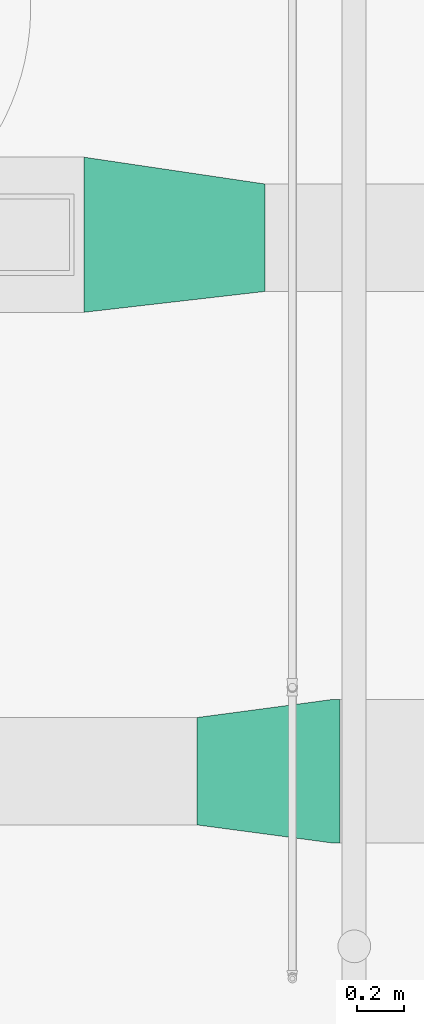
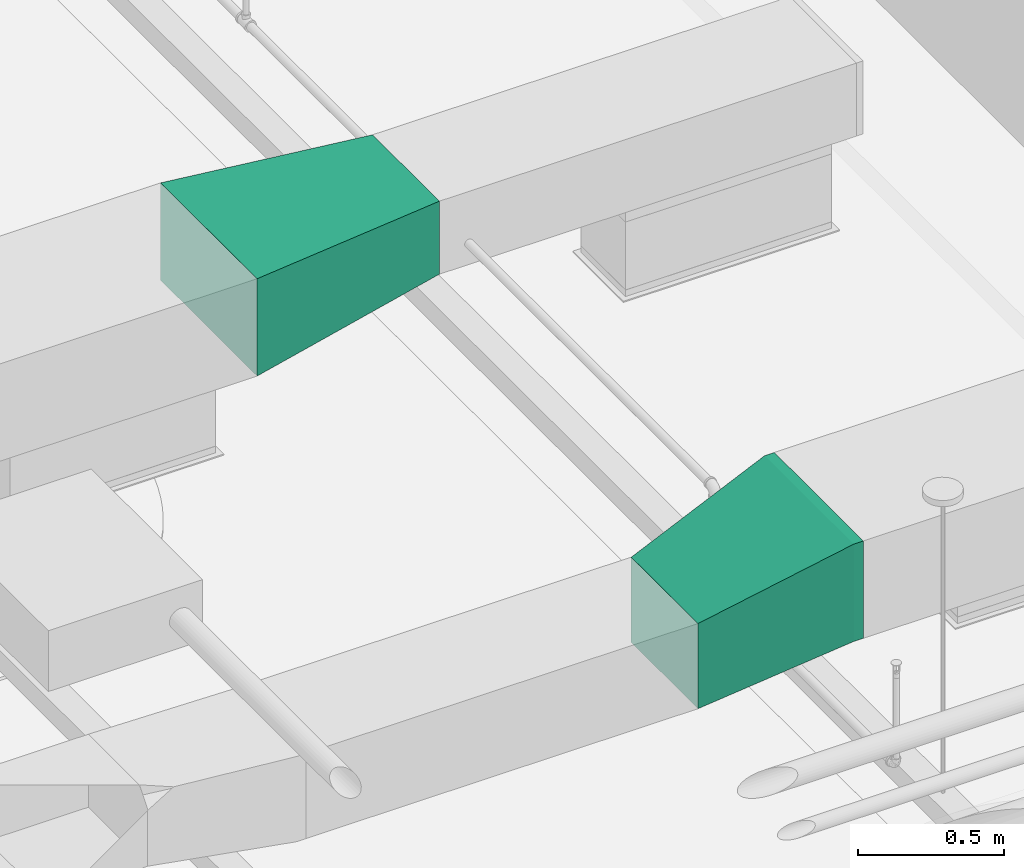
# One storey, part 103 of 108: 2 duct fittings.
"""IFC4 building model written with IfcOpenShell, lengths in feet."""

from ifc_helpers import new_model, entity, si_unit, converted_unit, derived_unit, direction, frame, origin, place, context, subcontext, project, spatial, source, transform, mapped, type_object, type_shapes, element, save


model = new_model("IFC4")

# Units and contexts
model_context = context("Model", 3, precision=0.0001, world=origin(), true_north=direction((6.12303176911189e-17, 1.0)))
body_context = subcontext(model_context, "Body", "Model", "MODEL_VIEW")
ifc_project = project(units=[converted_unit("LENGTHUNIT", "FOOT", entity("IfcRatioMeasure", 0.3048), si_unit("LENGTHUNIT", "METRE"), dimensions=[1, 0, 0, 0, 0, 0, 0]), converted_unit("AREAUNIT", "SQUARE FOOT", entity("IfcRatioMeasure", 0.09290304), si_unit("AREAUNIT", "SQUARE_METRE"), dimensions=[2, 0, 0, 0, 0, 0, 0]), converted_unit("VOLUMEUNIT", "CUBIC FOOT", entity("IfcRatioMeasure", 0.028316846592), si_unit("VOLUMEUNIT", "CUBIC_METRE"), dimensions=[3, 0, 0, 0, 0, 0, 0]), converted_unit("PLANEANGLEUNIT", "DEGREE", entity("IfcRatioMeasure", 0.0174532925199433), si_unit("PLANEANGLEUNIT", "RADIAN"), dimensions=[0, 0, 0, 0, 0, 0, 0]), si_unit("MASSUNIT", "GRAM", prefix="KILO"), derived_unit("MASSDENSITYUNIT", [(si_unit("MASSUNIT", "GRAM", prefix="KILO"), 1), (si_unit("LENGTHUNIT", "METRE"), -3)]), si_unit("TIMEUNIT", "SECOND"), si_unit("FREQUENCYUNIT", "HERTZ"), si_unit("THERMODYNAMICTEMPERATUREUNIT", "DEGREE_CELSIUS"), derived_unit("THERMALTRANSMITTANCEUNIT", [(si_unit("MASSUNIT", "GRAM", prefix="KILO"), 1), (si_unit("THERMODYNAMICTEMPERATUREUNIT", "KELVIN"), -1), (si_unit("TIMEUNIT", "SECOND"), -3)]), derived_unit("VOLUMETRICFLOWRATEUNIT", [(si_unit("LENGTHUNIT", "METRE"), 3), (si_unit("TIMEUNIT", "SECOND"), -1)]), si_unit("ELECTRICCURRENTUNIT", "AMPERE"), si_unit("ELECTRICVOLTAGEUNIT", "VOLT"), si_unit("POWERUNIT", "WATT"), si_unit("FORCEUNIT", "NEWTON"), si_unit("ILLUMINANCEUNIT", "LUX"), si_unit("LUMINOUSFLUXUNIT", "LUMEN"), si_unit("LUMINOUSINTENSITYUNIT", "CANDELA"), derived_unit("USERDEFINED", [(si_unit("MASSUNIT", "GRAM", prefix="KILO"), -1), (si_unit("LENGTHUNIT", "METRE"), -2), (si_unit("TIMEUNIT", "SECOND"), 3), (si_unit("LUMINOUSFLUXUNIT", "LUMEN"), 1)]), derived_unit("LINEARVELOCITYUNIT", [(si_unit("LENGTHUNIT", "METRE"), 1), (si_unit("TIMEUNIT", "SECOND"), -1)]), si_unit("PRESSUREUNIT", "PASCAL"), derived_unit("USERDEFINED", [(si_unit("LENGTHUNIT", "METRE"), -2), (si_unit("MASSUNIT", "GRAM", prefix="KILO"), 1), (si_unit("TIMEUNIT", "SECOND"), -2)])], contexts=[model_context])

# Site, building, storey
site_placement = place(None, origin())
site = spatial("IfcSite", under=ifc_project, at=site_placement, Name="Default", CompositionType="ELEMENT")
building_placement = place(site_placement, origin())
building = spatial("IfcBuilding", under=site, at=building_placement, CompositionType="ELEMENT")
storey_placement = place(building_placement, frame((0.0, 0.0, 168.0)))
storey = spatial("IfcBuildingStorey", under=building, at=storey_placement, Name="Level 15", CompositionType="ELEMENT", Elevation=168.0)

# Duct fittings
duct_fitting_type_1 = type_object("IfcDuctFittingType", Name="Standard", PredefinedType="NOTDEFINED")
cartesian_point_1 = entity("IfcCartesianPoint", [2.0, 0.749999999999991, -1.08333333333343])
vertex_point_1 = entity("IfcVertexPoint", cartesian_point_1)
cartesian_point_2 = entity("IfcCartesianPoint", [2.0, 0.749999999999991, 0.0833333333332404])
vertex_point_2 = entity("IfcVertexPoint", cartesian_point_2)
ifc_direction_1 = entity("IfcDirection", [0.0, 0.0, 1.0])
edge_curve_1 = entity("IfcEdgeCurve", vertex_point_1, vertex_point_2, entity("IfcTrimmedCurve", entity("IfcLine", cartesian_point_1, entity("IfcVector", ifc_direction_1, 1.0)), [cartesian_point_1], [cartesian_point_2], True, "CARTESIAN"), True)
cartesian_point_3 = entity("IfcCartesianPoint", [2.0, -0.75000000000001, 0.0833333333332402])
vertex_point_3 = entity("IfcVertexPoint", cartesian_point_3)
ifc_direction_2 = entity("IfcDirection", [0.0, -1.0, 0.0])
edge_curve_2 = entity("IfcEdgeCurve", vertex_point_2, vertex_point_3, entity("IfcTrimmedCurve", entity("IfcLine", cartesian_point_2, entity("IfcVector", ifc_direction_2, 1.0)), [cartesian_point_2], [cartesian_point_3], True, "CARTESIAN"), True)
cartesian_point_4 = entity("IfcCartesianPoint", [2.0, -0.75000000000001, -1.08333333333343])
vertex_point_4 = entity("IfcVertexPoint", cartesian_point_4)
ifc_direction_3 = entity("IfcDirection", [0.0, 0.0, -1.0])
edge_curve_3 = entity("IfcEdgeCurve", vertex_point_3, vertex_point_4, entity("IfcTrimmedCurve", entity("IfcLine", cartesian_point_3, entity("IfcVector", ifc_direction_3, 1.0)), [cartesian_point_3], [cartesian_point_4], True, "CARTESIAN"), True)
ifc_direction_4 = entity("IfcDirection", [0.0, 1.0, 0.0])
edge_curve_4 = entity("IfcEdgeCurve", vertex_point_4, vertex_point_1, entity("IfcTrimmedCurve", entity("IfcLine", cartesian_point_4, entity("IfcVector", ifc_direction_4, 1.0)), [cartesian_point_4], [cartesian_point_1], True, "CARTESIAN"), True)
ifc_direction_5 = entity("IfcDirection", [1.0, 0.0, 0.0])
cartesian_point_5 = entity("IfcCartesianPoint", [1.99739583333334, 0.749999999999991, -1.08333333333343])
vertex_point_5 = entity("IfcVertexPoint", cartesian_point_5)
cartesian_point_6 = entity("IfcCartesianPoint", [1.99739583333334, -0.75000000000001, -1.08333333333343])
vertex_point_6 = entity("IfcVertexPoint", cartesian_point_6)
edge_curve_5 = entity("IfcEdgeCurve", vertex_point_5, vertex_point_6, entity("IfcTrimmedCurve", entity("IfcLine", cartesian_point_5, entity("IfcVector", ifc_direction_2, 1.0)), [cartesian_point_5], [cartesian_point_6], True, "CARTESIAN"), True)
cartesian_point_7 = entity("IfcCartesianPoint", [1.99739583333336, -0.75000000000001, 0.0833333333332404])
vertex_point_7 = entity("IfcVertexPoint", cartesian_point_7)
edge_curve_6 = entity("IfcEdgeCurve", vertex_point_6, vertex_point_7, entity("IfcTrimmedCurve", entity("IfcLine", cartesian_point_6, entity("IfcVector", ifc_direction_1, 1.0)), [cartesian_point_6], [cartesian_point_7], True, "CARTESIAN"), True)
cartesian_point_8 = entity("IfcCartesianPoint", [1.99739583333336, 0.749999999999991, 0.0833333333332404])
vertex_point_8 = entity("IfcVertexPoint", cartesian_point_8)
edge_curve_7 = entity("IfcEdgeCurve", vertex_point_7, vertex_point_8, entity("IfcTrimmedCurve", entity("IfcLine", cartesian_point_7, entity("IfcVector", ifc_direction_4, 1.0)), [cartesian_point_7], [cartesian_point_8], True, "CARTESIAN"), True)
edge_curve_8 = entity("IfcEdgeCurve", vertex_point_8, vertex_point_5, entity("IfcTrimmedCurve", entity("IfcLine", cartesian_point_8, entity("IfcVector", ifc_direction_3, 1.0)), [cartesian_point_8], [cartesian_point_5], True, "CARTESIAN"), True)
ifc_direction_6 = entity("IfcDirection", [-1.0, 0.0, 0.0])
edge_curve_9 = entity("IfcEdgeCurve", vertex_point_1, vertex_point_5, entity("IfcTrimmedCurve", entity("IfcLine", cartesian_point_1, entity("IfcVector", ifc_direction_6, 1.0)), [cartesian_point_1], [cartesian_point_5], True, "CARTESIAN"), True)
edge_curve_10 = entity("IfcEdgeCurve", vertex_point_8, vertex_point_2, entity("IfcTrimmedCurve", entity("IfcLine", cartesian_point_2, entity("IfcVector", ifc_direction_5, 1.0)), [cartesian_point_8], [cartesian_point_2], True, "CARTESIAN"), True)
edge_curve_11 = entity("IfcEdgeCurve", vertex_point_7, vertex_point_3, entity("IfcTrimmedCurve", entity("IfcLine", cartesian_point_3, entity("IfcVector", ifc_direction_5, 1.0)), [cartesian_point_7], [cartesian_point_3], True, "CARTESIAN"), True)
edge_curve_12 = entity("IfcEdgeCurve", vertex_point_6, vertex_point_4, entity("IfcTrimmedCurve", entity("IfcLine", cartesian_point_4, entity("IfcVector", ifc_direction_5, 1.0)), [cartesian_point_6], [cartesian_point_4], True, "CARTESIAN"), True)
cartesian_point_9 = entity("IfcCartesianPoint", [0.125000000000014, 1.0, -0.666666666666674])
vertex_point_9 = entity("IfcVertexPoint", cartesian_point_9)
cartesian_point_10 = entity("IfcCartesianPoint", [0.125000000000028, 1.0, 0.666666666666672])
vertex_point_10 = entity("IfcVertexPoint", cartesian_point_10)
ifc_direction_7 = entity("IfcDirection", [0.0, 0.0, 1.0])
edge_curve_13 = entity("IfcEdgeCurve", vertex_point_9, vertex_point_10, entity("IfcTrimmedCurve", entity("IfcLine", cartesian_point_9, entity("IfcVector", ifc_direction_7, 1.0)), [cartesian_point_9], [cartesian_point_10], True, "CARTESIAN"), True)
cartesian_point_11 = entity("IfcCartesianPoint", [0.125000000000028, -1.0, 0.666666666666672])
vertex_point_11 = entity("IfcVertexPoint", cartesian_point_11)
ifc_direction_8 = entity("IfcDirection", [0.0, -1.0, 0.0])
edge_curve_14 = entity("IfcEdgeCurve", vertex_point_10, vertex_point_11, entity("IfcTrimmedCurve", entity("IfcLine", cartesian_point_10, entity("IfcVector", ifc_direction_8, 1.0)), [cartesian_point_10], [cartesian_point_11], True, "CARTESIAN"), True)
cartesian_point_12 = entity("IfcCartesianPoint", [0.125000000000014, -1.0, -0.666666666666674])
vertex_point_12 = entity("IfcVertexPoint", cartesian_point_12)
ifc_direction_9 = entity("IfcDirection", [0.0, 0.0, -1.0])
edge_curve_15 = entity("IfcEdgeCurve", vertex_point_11, vertex_point_12, entity("IfcTrimmedCurve", entity("IfcLine", cartesian_point_11, entity("IfcVector", ifc_direction_9, 1.0)), [cartesian_point_11], [cartesian_point_12], True, "CARTESIAN"), True)
ifc_direction_10 = entity("IfcDirection", [0.0, 1.0, 0.0])
edge_curve_16 = entity("IfcEdgeCurve", vertex_point_12, vertex_point_9, entity("IfcTrimmedCurve", entity("IfcLine", cartesian_point_12, entity("IfcVector", ifc_direction_10, 1.0)), [cartesian_point_12], [cartesian_point_9], True, "CARTESIAN"), True)
ifc_direction_11 = entity("IfcDirection", [1.0, 0.0, 0.0])
cartesian_point_13 = entity("IfcCartesianPoint", [0.0, 1.0, -0.666666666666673])
vertex_point_13 = entity("IfcVertexPoint", cartesian_point_13)
cartesian_point_14 = entity("IfcCartesianPoint", [0.0, -1.0, -0.666666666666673])
vertex_point_14 = entity("IfcVertexPoint", cartesian_point_14)
edge_curve_17 = entity("IfcEdgeCurve", vertex_point_13, vertex_point_14, entity("IfcTrimmedCurve", entity("IfcLine", cartesian_point_13, entity("IfcVector", ifc_direction_8, 1.0)), [cartesian_point_13], [cartesian_point_14], True, "CARTESIAN"), True)
cartesian_point_15 = entity("IfcCartesianPoint", [0.0, -1.0, 0.666666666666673])
vertex_point_15 = entity("IfcVertexPoint", cartesian_point_15)
edge_curve_18 = entity("IfcEdgeCurve", vertex_point_14, vertex_point_15, entity("IfcTrimmedCurve", entity("IfcLine", cartesian_point_14, entity("IfcVector", ifc_direction_7, 1.0)), [cartesian_point_14], [cartesian_point_15], True, "CARTESIAN"), True)
cartesian_point_16 = entity("IfcCartesianPoint", [0.0, 1.0, 0.666666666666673])
vertex_point_16 = entity("IfcVertexPoint", cartesian_point_16)
edge_curve_19 = entity("IfcEdgeCurve", vertex_point_15, vertex_point_16, entity("IfcTrimmedCurve", entity("IfcLine", cartesian_point_15, entity("IfcVector", ifc_direction_10, 1.0)), [cartesian_point_15], [cartesian_point_16], True, "CARTESIAN"), True)
edge_curve_20 = entity("IfcEdgeCurve", vertex_point_16, vertex_point_13, entity("IfcTrimmedCurve", entity("IfcLine", cartesian_point_16, entity("IfcVector", ifc_direction_9, 1.0)), [cartesian_point_16], [cartesian_point_13], True, "CARTESIAN"), True)
ifc_direction_12 = entity("IfcDirection", [-1.0, 0.0, 0.0])
edge_curve_21 = entity("IfcEdgeCurve", vertex_point_9, vertex_point_13, entity("IfcTrimmedCurve", entity("IfcLine", cartesian_point_9, entity("IfcVector", ifc_direction_12, 1.0)), [cartesian_point_9], [cartesian_point_13], True, "CARTESIAN"), True)
edge_curve_22 = entity("IfcEdgeCurve", vertex_point_16, vertex_point_10, entity("IfcTrimmedCurve", entity("IfcLine", cartesian_point_10, entity("IfcVector", ifc_direction_11, 1.0)), [cartesian_point_16], [cartesian_point_10], True, "CARTESIAN"), True)
edge_curve_23 = entity("IfcEdgeCurve", vertex_point_15, vertex_point_11, entity("IfcTrimmedCurve", entity("IfcLine", cartesian_point_11, entity("IfcVector", ifc_direction_11, 1.0)), [cartesian_point_15], [cartesian_point_11], True, "CARTESIAN"), True)
edge_curve_24 = entity("IfcEdgeCurve", vertex_point_14, vertex_point_12, entity("IfcTrimmedCurve", entity("IfcLine", cartesian_point_12, entity("IfcVector", ifc_direction_11, 1.0)), [cartesian_point_14], [cartesian_point_12], True, "CARTESIAN"), True)
cartesian_point_17 = entity("IfcCartesianPoint", [0.125000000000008, 1.0, 0.666666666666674])
vertex_point_17 = entity("IfcVertexPoint", cartesian_point_17)
cartesian_point_18 = entity("IfcCartesianPoint", [0.125000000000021, 1.0, -0.666666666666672])
vertex_point_18 = entity("IfcVertexPoint", cartesian_point_18)
ifc_direction_13 = entity("IfcDirection", [0.0, 0.0, -1.0])
edge_curve_25 = entity("IfcEdgeCurve", vertex_point_17, vertex_point_18, entity("IfcTrimmedCurve", entity("IfcLine", cartesian_point_18, entity("IfcVector", ifc_direction_13, 1.0)), [cartesian_point_17], [cartesian_point_18], True, "CARTESIAN"), True)
cartesian_point_19 = entity("IfcCartesianPoint", [0.125000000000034, -1.0, -0.666666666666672])
vertex_point_19 = entity("IfcVertexPoint", cartesian_point_19)
ifc_direction_14 = entity("IfcDirection", [0.0, -1.0, 0.0])
edge_curve_26 = entity("IfcEdgeCurve", vertex_point_18, vertex_point_19, entity("IfcTrimmedCurve", entity("IfcLine", cartesian_point_19, entity("IfcVector", ifc_direction_14, 1.0)), [cartesian_point_18], [cartesian_point_19], True, "CARTESIAN"), True)
cartesian_point_20 = entity("IfcCartesianPoint", [0.12500000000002, -1.0, 0.666666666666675])
vertex_point_20 = entity("IfcVertexPoint", cartesian_point_20)
ifc_direction_15 = entity("IfcDirection", [0.0, 0.0, 1.0])
edge_curve_27 = entity("IfcEdgeCurve", vertex_point_19, vertex_point_20, entity("IfcTrimmedCurve", entity("IfcLine", cartesian_point_20, entity("IfcVector", ifc_direction_15, 1.0)), [cartesian_point_19], [cartesian_point_20], True, "CARTESIAN"), True)
ifc_direction_16 = entity("IfcDirection", [0.0, 1.0, 0.0])
edge_curve_28 = entity("IfcEdgeCurve", vertex_point_20, vertex_point_17, entity("IfcTrimmedCurve", entity("IfcLine", cartesian_point_17, entity("IfcVector", ifc_direction_16, 1.0)), [cartesian_point_20], [cartesian_point_17], True, "CARTESIAN"), True)
cartesian_point_21 = entity("IfcCartesianPoint", [1.99739583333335, 0.749999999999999, 0.0833333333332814])
vertex_point_21 = entity("IfcVertexPoint", cartesian_point_21)
cartesian_point_22 = entity("IfcCartesianPoint", [1.99739583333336, -0.750000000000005, 0.0833333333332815])
vertex_point_22 = entity("IfcVertexPoint", cartesian_point_22)
edge_curve_29 = entity("IfcEdgeCurve", vertex_point_21, vertex_point_22, entity("IfcTrimmedCurve", entity("IfcLine", cartesian_point_22, entity("IfcVector", ifc_direction_14, 1.0)), [cartesian_point_21], [cartesian_point_22], True, "CARTESIAN"), True)
cartesian_point_23 = entity("IfcCartesianPoint", [1.99739583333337, -0.750000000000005, -1.08333333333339])
vertex_point_23 = entity("IfcVertexPoint", cartesian_point_23)
edge_curve_30 = entity("IfcEdgeCurve", vertex_point_22, vertex_point_23, entity("IfcTrimmedCurve", entity("IfcLine", cartesian_point_23, entity("IfcVector", ifc_direction_13, 1.0)), [cartesian_point_22], [cartesian_point_23], True, "CARTESIAN"), True)
cartesian_point_24 = entity("IfcCartesianPoint", [1.99739583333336, 0.749999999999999, -1.08333333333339])
vertex_point_24 = entity("IfcVertexPoint", cartesian_point_24)
edge_curve_31 = entity("IfcEdgeCurve", vertex_point_23, vertex_point_24, entity("IfcTrimmedCurve", entity("IfcLine", cartesian_point_24, entity("IfcVector", ifc_direction_16, 1.0)), [cartesian_point_23], [cartesian_point_24], True, "CARTESIAN"), True)
edge_curve_32 = entity("IfcEdgeCurve", vertex_point_24, vertex_point_21, entity("IfcTrimmedCurve", entity("IfcLine", cartesian_point_21, entity("IfcVector", ifc_direction_15, 1.0)), [cartesian_point_24], [cartesian_point_21], True, "CARTESIAN"), True)
edge_curve_33 = entity("IfcEdgeCurve", vertex_point_24, vertex_point_18, entity("IfcTrimmedCurve", entity("IfcLine", cartesian_point_24, entity("IfcVector", entity("IfcDirection", [-0.967937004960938, 0.12923776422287, 0.215396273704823]), 1.0)), [cartesian_point_24], [cartesian_point_18], True, "CARTESIAN"), True)
edge_curve_34 = entity("IfcEdgeCurve", vertex_point_17, vertex_point_21, entity("IfcTrimmedCurve", entity("IfcLine", cartesian_point_17, entity("IfcVector", entity("IfcDirection", [0.947075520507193, -0.126452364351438, -0.295055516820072]), 1.0)), [cartesian_point_17], [cartesian_point_21], True, "CARTESIAN"), True)
edge_curve_35 = entity("IfcEdgeCurve", vertex_point_23, vertex_point_19, entity("IfcTrimmedCurve", entity("IfcLine", cartesian_point_23, entity("IfcVector", entity("IfcDirection", [-0.967937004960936, -0.129237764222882, 0.215396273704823]), 1.0)), [cartesian_point_23], [cartesian_point_19], True, "CARTESIAN"), True)
edge_curve_36 = entity("IfcEdgeCurve", vertex_point_22, vertex_point_20, entity("IfcTrimmedCurve", entity("IfcLine", cartesian_point_22, entity("IfcVector", entity("IfcDirection", [-0.947075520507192, -0.12645236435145, 0.295055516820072]), 1.0)), [cartesian_point_22], [cartesian_point_20], True, "CARTESIAN"), True)
shared_shape_1 = source(origin(), body_context, "Body", "AdvancedBrep", [
    entity("IfcAdvancedBrep", entity("IfcClosedShell", [entity("IfcAdvancedFace", [entity("IfcFaceOuterBound", entity("IfcEdgeLoop", [entity("IfcOrientedEdge", None, None, edge_curve_1, True), entity("IfcOrientedEdge", None, None, edge_curve_2, True), entity("IfcOrientedEdge", None, None, edge_curve_3, True), entity("IfcOrientedEdge", None, None, edge_curve_4, True)]), True)], entity("IfcPlane", entity("IfcAxis2Placement3D", cartesian_point_1, ifc_direction_5, ifc_direction_1)), True), entity("IfcAdvancedFace", [entity("IfcFaceOuterBound", entity("IfcEdgeLoop", [entity("IfcOrientedEdge", None, None, edge_curve_5, True), entity("IfcOrientedEdge", None, None, edge_curve_6, True), entity("IfcOrientedEdge", None, None, edge_curve_7, True), entity("IfcOrientedEdge", None, None, edge_curve_8, True)]), True)], entity("IfcPlane", entity("IfcAxis2Placement3D", cartesian_point_5, ifc_direction_6, ifc_direction_3)), True), entity("IfcAdvancedFace", [entity("IfcFaceOuterBound", entity("IfcEdgeLoop", [entity("IfcOrientedEdge", None, None, edge_curve_1, False), entity("IfcOrientedEdge", None, None, edge_curve_9, True), entity("IfcOrientedEdge", None, None, edge_curve_8, False), entity("IfcOrientedEdge", None, None, edge_curve_10, True)]), True)], entity("IfcPlane", entity("IfcAxis2Placement3D", cartesian_point_1, ifc_direction_4, ifc_direction_6)), True), entity("IfcAdvancedFace", [entity("IfcFaceOuterBound", entity("IfcEdgeLoop", [entity("IfcOrientedEdge", None, None, edge_curve_2, False), entity("IfcOrientedEdge", None, None, edge_curve_10, False), entity("IfcOrientedEdge", None, None, edge_curve_7, False), entity("IfcOrientedEdge", None, None, edge_curve_11, True)]), True)], entity("IfcPlane", entity("IfcAxis2Placement3D", cartesian_point_2, ifc_direction_1, ifc_direction_6)), True), entity("IfcAdvancedFace", [entity("IfcFaceOuterBound", entity("IfcEdgeLoop", [entity("IfcOrientedEdge", None, None, edge_curve_3, False), entity("IfcOrientedEdge", None, None, edge_curve_11, False), entity("IfcOrientedEdge", None, None, edge_curve_6, False), entity("IfcOrientedEdge", None, None, edge_curve_12, True)]), True)], entity("IfcPlane", entity("IfcAxis2Placement3D", cartesian_point_3, ifc_direction_2, ifc_direction_6)), True), entity("IfcAdvancedFace", [entity("IfcFaceOuterBound", entity("IfcEdgeLoop", [entity("IfcOrientedEdge", None, None, edge_curve_4, False), entity("IfcOrientedEdge", None, None, edge_curve_12, False), entity("IfcOrientedEdge", None, None, edge_curve_5, False), entity("IfcOrientedEdge", None, None, edge_curve_9, False)]), True)], entity("IfcPlane", entity("IfcAxis2Placement3D", cartesian_point_4, ifc_direction_3, ifc_direction_6)), True)])),
    entity("IfcAdvancedBrep", entity("IfcClosedShell", [entity("IfcAdvancedFace", [entity("IfcFaceOuterBound", entity("IfcEdgeLoop", [entity("IfcOrientedEdge", None, None, edge_curve_13, True), entity("IfcOrientedEdge", None, None, edge_curve_14, True), entity("IfcOrientedEdge", None, None, edge_curve_15, True), entity("IfcOrientedEdge", None, None, edge_curve_16, True)]), True)], entity("IfcPlane", entity("IfcAxis2Placement3D", cartesian_point_9, ifc_direction_11, ifc_direction_7)), True), entity("IfcAdvancedFace", [entity("IfcFaceOuterBound", entity("IfcEdgeLoop", [entity("IfcOrientedEdge", None, None, edge_curve_17, True), entity("IfcOrientedEdge", None, None, edge_curve_18, True), entity("IfcOrientedEdge", None, None, edge_curve_19, True), entity("IfcOrientedEdge", None, None, edge_curve_20, True)]), True)], entity("IfcPlane", entity("IfcAxis2Placement3D", cartesian_point_13, ifc_direction_12, ifc_direction_9)), True), entity("IfcAdvancedFace", [entity("IfcFaceOuterBound", entity("IfcEdgeLoop", [entity("IfcOrientedEdge", None, None, edge_curve_13, False), entity("IfcOrientedEdge", None, None, edge_curve_21, True), entity("IfcOrientedEdge", None, None, edge_curve_20, False), entity("IfcOrientedEdge", None, None, edge_curve_22, True)]), True)], entity("IfcPlane", entity("IfcAxis2Placement3D", cartesian_point_9, ifc_direction_10, ifc_direction_12)), True), entity("IfcAdvancedFace", [entity("IfcFaceOuterBound", entity("IfcEdgeLoop", [entity("IfcOrientedEdge", None, None, edge_curve_14, False), entity("IfcOrientedEdge", None, None, edge_curve_22, False), entity("IfcOrientedEdge", None, None, edge_curve_19, False), entity("IfcOrientedEdge", None, None, edge_curve_23, True)]), True)], entity("IfcPlane", entity("IfcAxis2Placement3D", cartesian_point_10, ifc_direction_7, ifc_direction_12)), True), entity("IfcAdvancedFace", [entity("IfcFaceOuterBound", entity("IfcEdgeLoop", [entity("IfcOrientedEdge", None, None, edge_curve_15, False), entity("IfcOrientedEdge", None, None, edge_curve_23, False), entity("IfcOrientedEdge", None, None, edge_curve_18, False), entity("IfcOrientedEdge", None, None, edge_curve_24, True)]), True)], entity("IfcPlane", entity("IfcAxis2Placement3D", cartesian_point_11, ifc_direction_8, ifc_direction_12)), True), entity("IfcAdvancedFace", [entity("IfcFaceOuterBound", entity("IfcEdgeLoop", [entity("IfcOrientedEdge", None, None, edge_curve_16, False), entity("IfcOrientedEdge", None, None, edge_curve_24, False), entity("IfcOrientedEdge", None, None, edge_curve_17, False), entity("IfcOrientedEdge", None, None, edge_curve_21, False)]), True)], entity("IfcPlane", entity("IfcAxis2Placement3D", cartesian_point_12, ifc_direction_9, ifc_direction_12)), True)])),
    entity("IfcAdvancedBrep", entity("IfcClosedShell", [entity("IfcAdvancedFace", [entity("IfcFaceOuterBound", entity("IfcEdgeLoop", [entity("IfcOrientedEdge", None, None, edge_curve_25, True), entity("IfcOrientedEdge", None, None, edge_curve_26, True), entity("IfcOrientedEdge", None, None, edge_curve_27, True), entity("IfcOrientedEdge", None, None, edge_curve_28, True)]), True)], entity("IfcPlane", entity("IfcAxis2Placement3D", entity("IfcCartesianPoint", [0.125000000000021, 0.0, 0.0]), entity("IfcDirection", [-1.0, 0.0, 0.0]), ifc_direction_13)), True), entity("IfcAdvancedFace", [entity("IfcFaceOuterBound", entity("IfcEdgeLoop", [entity("IfcOrientedEdge", None, None, edge_curve_29, True), entity("IfcOrientedEdge", None, None, edge_curve_30, True), entity("IfcOrientedEdge", None, None, edge_curve_31, True), entity("IfcOrientedEdge", None, None, edge_curve_32, True)]), True)], entity("IfcPlane", entity("IfcAxis2Placement3D", entity("IfcCartesianPoint", [1.99739583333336, 0.0, -0.500000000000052]), entity("IfcDirection", [1.0, 0.0, 0.0]), ifc_direction_13)), True), entity("IfcAdvancedFace", [entity("IfcFaceOuterBound", entity("IfcEdgeLoop", [entity("IfcOrientedEdge", None, None, edge_curve_32, False), entity("IfcOrientedEdge", None, None, edge_curve_33, True), entity("IfcOrientedEdge", None, None, edge_curve_25, False), entity("IfcOrientedEdge", None, None, edge_curve_34, True)]), True)], entity("IfcPlane", entity("IfcAxis2Placement3D", entity("IfcCartesianPoint", [1.99739583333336, 0.749999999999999, -0.500000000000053]), entity("IfcDirection", [0.132344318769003, 0.99120380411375, 0.0]), ifc_direction_13)), True), entity("IfcAdvancedFace", [entity("IfcFaceOuterBound", entity("IfcEdgeLoop", [entity("IfcOrientedEdge", None, None, edge_curve_31, False), entity("IfcOrientedEdge", None, None, edge_curve_35, True), entity("IfcOrientedEdge", None, None, edge_curve_26, False), entity("IfcOrientedEdge", None, None, edge_curve_33, False)]), True)], entity("IfcPlane", entity("IfcAxis2Placement3D", entity("IfcCartesianPoint", [1.99739583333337, 0.0, -1.08333333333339]), entity("IfcDirection", [-0.217217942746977, 0.0, -0.976123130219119]), ifc_direction_14)), True), entity("IfcAdvancedFace", [entity("IfcFaceOuterBound", entity("IfcEdgeLoop", [entity("IfcOrientedEdge", None, None, edge_curve_30, False), entity("IfcOrientedEdge", None, None, edge_curve_36, True), entity("IfcOrientedEdge", None, None, edge_curve_27, False), entity("IfcOrientedEdge", None, None, edge_curve_35, False)]), True)], entity("IfcPlane", entity("IfcAxis2Placement3D", entity("IfcCartesianPoint", [1.99739583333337, -0.750000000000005, -0.500000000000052]), entity("IfcDirection", [0.132344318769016, -0.991203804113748, 0.0]), ifc_direction_15)), True), entity("IfcAdvancedFace", [entity("IfcFaceOuterBound", entity("IfcEdgeLoop", [entity("IfcOrientedEdge", None, None, edge_curve_29, False), entity("IfcOrientedEdge", None, None, edge_curve_34, False), entity("IfcOrientedEdge", None, None, edge_curve_28, False), entity("IfcOrientedEdge", None, None, edge_curve_36, False)]), True)], entity("IfcPlane", entity("IfcAxis2Placement3D", entity("IfcCartesianPoint", [1.99739583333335, 0.0, 0.0833333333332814]), entity("IfcDirection", [0.297443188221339, 0.0, 0.954739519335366]), ifc_direction_16)), True)])),
])
type_shapes(duct_fitting_type_1, [shared_shape_1])
duct_fitting_1_placement = place(storey_placement, frame((-25.092520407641, -11.1821076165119, 9.89583333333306), z_axis=(0.0, 0.0, 1.0), x_axis=(-1.0, 0.0, 0.0)))
element("IfcDuctFitting", 1, at=duct_fitting_1_placement, inside=storey, type_object=duct_fitting_type_1, Name="Rectangular Length Eccentric Transition - DTL:Standard", ObjectType="Rectangular Length Eccentric Transition - DTL:Standard", PredefinedType="NOTDEFINED", context=body_context, shape_type="MappedRepresentation", body=[
    mapped(shared_shape_1, transform((0.0, 0.0, 0.0), scale=1.0)),
])
duct_fitting_type_2 = type_object("IfcDuctFittingType", Name="15 Degree", PredefinedType="NOTDEFINED")
cartesian_point_25 = entity("IfcCartesianPoint", [2.53124385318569, -1.12499999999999, 0.499999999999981])
vertex_point_25 = entity("IfcVertexPoint", cartesian_point_25)
cartesian_point_26 = entity("IfcCartesianPoint", [2.53124385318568, -1.12499999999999, -0.833333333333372])
vertex_point_26 = entity("IfcVertexPoint", cartesian_point_26)
ifc_direction_17 = entity("IfcDirection", [0.0, 0.0, -1.0])
edge_curve_37 = entity("IfcEdgeCurve", vertex_point_25, vertex_point_26, entity("IfcTrimmedCurve", entity("IfcLine", cartesian_point_26, entity("IfcVector", ifc_direction_17, 1.0)), [cartesian_point_25], [cartesian_point_26], True, "CARTESIAN"), True)
cartesian_point_27 = entity("IfcCartesianPoint", [2.53124385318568, 1.04166666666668, -0.833333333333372])
vertex_point_27 = entity("IfcVertexPoint", cartesian_point_27)
ifc_direction_18 = entity("IfcDirection", [0.0, 1.0, 0.0])
edge_curve_38 = entity("IfcEdgeCurve", vertex_point_26, vertex_point_27, entity("IfcTrimmedCurve", entity("IfcLine", cartesian_point_27, entity("IfcVector", ifc_direction_18, 1.0)), [cartesian_point_26], [cartesian_point_27], True, "CARTESIAN"), True)
cartesian_point_28 = entity("IfcCartesianPoint", [2.53124385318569, 1.04166666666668, 0.499999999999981])
vertex_point_28 = entity("IfcVertexPoint", cartesian_point_28)
ifc_direction_19 = entity("IfcDirection", [0.0, 0.0, 1.0])
edge_curve_39 = entity("IfcEdgeCurve", vertex_point_27, vertex_point_28, entity("IfcTrimmedCurve", entity("IfcLine", cartesian_point_28, entity("IfcVector", ifc_direction_19, 1.0)), [cartesian_point_27], [cartesian_point_28], True, "CARTESIAN"), True)
ifc_direction_20 = entity("IfcDirection", [0.0, -1.0, 0.0])
edge_curve_40 = entity("IfcEdgeCurve", vertex_point_28, vertex_point_25, entity("IfcTrimmedCurve", entity("IfcLine", cartesian_point_25, entity("IfcVector", ifc_direction_20, 1.0)), [cartesian_point_28], [cartesian_point_25], True, "CARTESIAN"), True)
cartesian_point_29 = entity("IfcCartesianPoint", [0.0, -0.750000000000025, 0.5])
vertex_point_29 = entity("IfcVertexPoint", cartesian_point_29)
cartesian_point_30 = entity("IfcCartesianPoint", [0.0, 0.749999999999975, 0.5])
vertex_point_30 = entity("IfcVertexPoint", cartesian_point_30)
edge_curve_41 = entity("IfcEdgeCurve", vertex_point_29, vertex_point_30, entity("IfcTrimmedCurve", entity("IfcLine", cartesian_point_30, entity("IfcVector", ifc_direction_18, 1.0)), [cartesian_point_29], [cartesian_point_30], True, "CARTESIAN"), True)
cartesian_point_31 = entity("IfcCartesianPoint", [0.0, 0.749999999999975, -0.500000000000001])
vertex_point_31 = entity("IfcVertexPoint", cartesian_point_31)
edge_curve_42 = entity("IfcEdgeCurve", vertex_point_30, vertex_point_31, entity("IfcTrimmedCurve", entity("IfcLine", cartesian_point_31, entity("IfcVector", ifc_direction_17, 1.0)), [cartesian_point_30], [cartesian_point_31], True, "CARTESIAN"), True)
cartesian_point_32 = entity("IfcCartesianPoint", [0.0, -0.750000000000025, -0.500000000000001])
vertex_point_32 = entity("IfcVertexPoint", cartesian_point_32)
edge_curve_43 = entity("IfcEdgeCurve", vertex_point_31, vertex_point_32, entity("IfcTrimmedCurve", entity("IfcLine", cartesian_point_32, entity("IfcVector", ifc_direction_20, 1.0)), [cartesian_point_31], [cartesian_point_32], True, "CARTESIAN"), True)
edge_curve_44 = entity("IfcEdgeCurve", vertex_point_32, vertex_point_29, entity("IfcTrimmedCurve", entity("IfcLine", cartesian_point_29, entity("IfcVector", ifc_direction_19, 1.0)), [cartesian_point_32], [cartesian_point_29], True, "CARTESIAN"), True)
edge_curve_45 = entity("IfcEdgeCurve", vertex_point_32, vertex_point_26, entity("IfcTrimmedCurve", entity("IfcLine", cartesian_point_32, entity("IfcVector", entity("IfcDirection", [0.9809157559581, -0.145321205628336, -0.129174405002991]), 1.0)), [cartesian_point_32], [cartesian_point_26], True, "CARTESIAN"), True)
edge_curve_46 = entity("IfcEdgeCurve", vertex_point_25, vertex_point_29, entity("IfcTrimmedCurve", entity("IfcLine", cartesian_point_25, entity("IfcVector", entity("IfcDirection", [-0.989203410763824, 0.146549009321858, 0.0]), 1.0)), [cartesian_point_25], [cartesian_point_29], True, "CARTESIAN"), True)
edge_curve_47 = entity("IfcEdgeCurve", vertex_point_31, vertex_point_27, entity("IfcTrimmedCurve", entity("IfcLine", cartesian_point_31, entity("IfcVector", entity("IfcDirection", [0.985033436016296, 0.113502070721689, -0.129716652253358]), 1.0)), [cartesian_point_31], [cartesian_point_27], True, "CARTESIAN"), True)
edge_curve_48 = entity("IfcEdgeCurve", vertex_point_30, vertex_point_28, entity("IfcTrimmedCurve", entity("IfcLine", cartesian_point_30, entity("IfcVector", entity("IfcDirection", [0.993426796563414, 0.11446920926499, 0.0]), 1.0)), [cartesian_point_30], [cartesian_point_28], True, "CARTESIAN"), True)
shared_shape_2 = source(origin(), body_context, "Body", "AdvancedBrep", [
    entity("IfcAdvancedBrep", entity("IfcClosedShell", [entity("IfcAdvancedFace", [entity("IfcFaceOuterBound", entity("IfcEdgeLoop", [entity("IfcOrientedEdge", None, None, edge_curve_37, True), entity("IfcOrientedEdge", None, None, edge_curve_38, True), entity("IfcOrientedEdge", None, None, edge_curve_39, True), entity("IfcOrientedEdge", None, None, edge_curve_40, True)]), True)], entity("IfcPlane", entity("IfcAxis2Placement3D", entity("IfcCartesianPoint", [2.53124385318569, -0.0416666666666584, -0.166666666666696]), entity("IfcDirection", [1.0, 0.0, 0.0]), ifc_direction_17)), True), entity("IfcAdvancedFace", [entity("IfcFaceOuterBound", entity("IfcEdgeLoop", [entity("IfcOrientedEdge", None, None, edge_curve_41, True), entity("IfcOrientedEdge", None, None, edge_curve_42, True), entity("IfcOrientedEdge", None, None, edge_curve_43, True), entity("IfcOrientedEdge", None, None, edge_curve_44, True)]), True)], entity("IfcPlane", entity("IfcAxis2Placement3D", entity("IfcCartesianPoint", [0.0, 0.0, 0.0]), entity("IfcDirection", [-1.0, 0.0, 0.0]), ifc_direction_17)), True), entity("IfcAdvancedFace", [entity("IfcFaceOuterBound", entity("IfcEdgeLoop", [entity("IfcOrientedEdge", None, None, edge_curve_44, False), entity("IfcOrientedEdge", None, None, edge_curve_45, True), entity("IfcOrientedEdge", None, None, edge_curve_37, False), entity("IfcOrientedEdge", None, None, edge_curve_46, True)]), True)], entity("IfcPlane", entity("IfcAxis2Placement3D", entity("IfcCartesianPoint", [0.0, -0.750000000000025, 0.0]), entity("IfcDirection", [-0.146549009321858, -0.989203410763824, 0.0]), ifc_direction_17)), True), entity("IfcAdvancedFace", [entity("IfcFaceOuterBound", entity("IfcEdgeLoop", [entity("IfcOrientedEdge", None, None, edge_curve_43, False), entity("IfcOrientedEdge", None, None, edge_curve_47, True), entity("IfcOrientedEdge", None, None, edge_curve_38, False), entity("IfcOrientedEdge", None, None, edge_curve_45, False)]), True)], entity("IfcPlane", entity("IfcAxis2Placement3D", entity("IfcCartesianPoint", [0.0, 0.0, -0.500000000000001]), entity("IfcDirection", [-0.130560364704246, 0.0, -0.99144036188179]), ifc_direction_18)), True), entity("IfcAdvancedFace", [entity("IfcFaceOuterBound", entity("IfcEdgeLoop", [entity("IfcOrientedEdge", None, None, edge_curve_42, False), entity("IfcOrientedEdge", None, None, edge_curve_48, True), entity("IfcOrientedEdge", None, None, edge_curve_39, False), entity("IfcOrientedEdge", None, None, edge_curve_47, False)]), True)], entity("IfcPlane", entity("IfcAxis2Placement3D", entity("IfcCartesianPoint", [0.0, 0.749999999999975, 0.0]), entity("IfcDirection", [-0.11446920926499, 0.993426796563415, 0.0]), ifc_direction_19)), True), entity("IfcAdvancedFace", [entity("IfcFaceOuterBound", entity("IfcEdgeLoop", [entity("IfcOrientedEdge", None, None, edge_curve_41, False), entity("IfcOrientedEdge", None, None, edge_curve_46, False), entity("IfcOrientedEdge", None, None, edge_curve_40, False), entity("IfcOrientedEdge", None, None, edge_curve_48, False)]), True)], entity("IfcPlane", entity("IfcAxis2Placement3D", entity("IfcCartesianPoint", [0.0, 0.0, 0.5]), ifc_direction_19, ifc_direction_20)), True)])),
])
type_shapes(duct_fitting_type_2, [shared_shape_2])
duct_fitting_2_placement = place(storey_placement, frame((-26.1423457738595, -3.7332929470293, 10.4166666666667), z_axis=(0.0, 0.0, 1.0), x_axis=(-1.0, 0.0, 0.0)))
element("IfcDuctFitting", 2, at=duct_fitting_2_placement, inside=storey, type_object=duct_fitting_type_2, Name="Rectangular Transition - Angle:15 Degree", ObjectType="Rectangular Transition - Angle:15 Degree", PredefinedType="NOTDEFINED", context=body_context, shape_type="MappedRepresentation", body=[
    mapped(shared_shape_2, transform((0.0, 0.0, 0.0), scale=1.0)),
])

save(model, "model.ifc")
